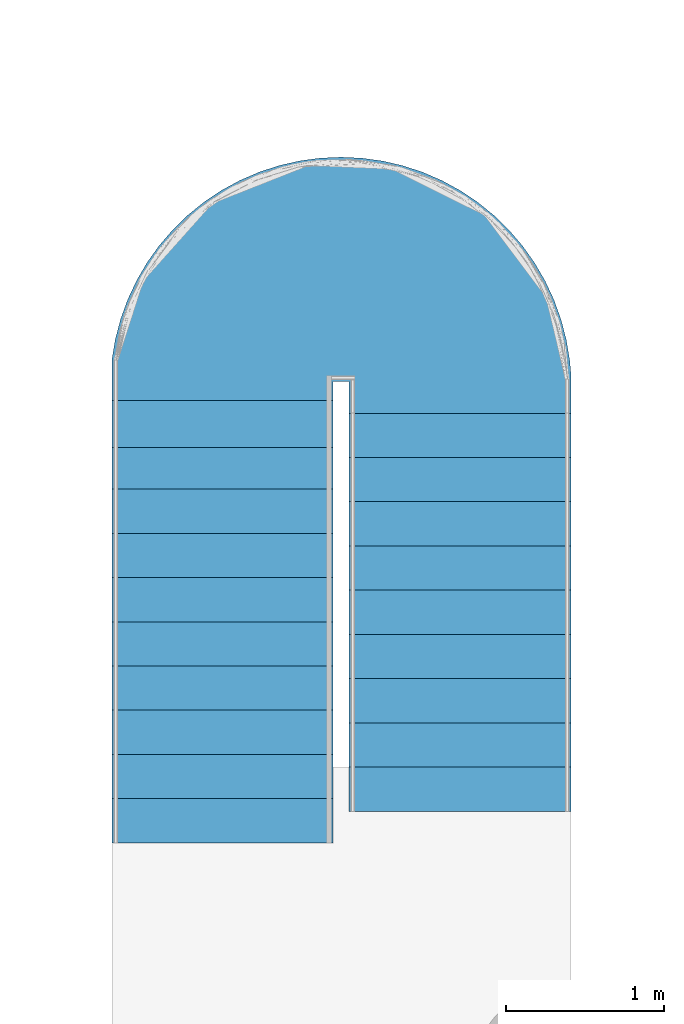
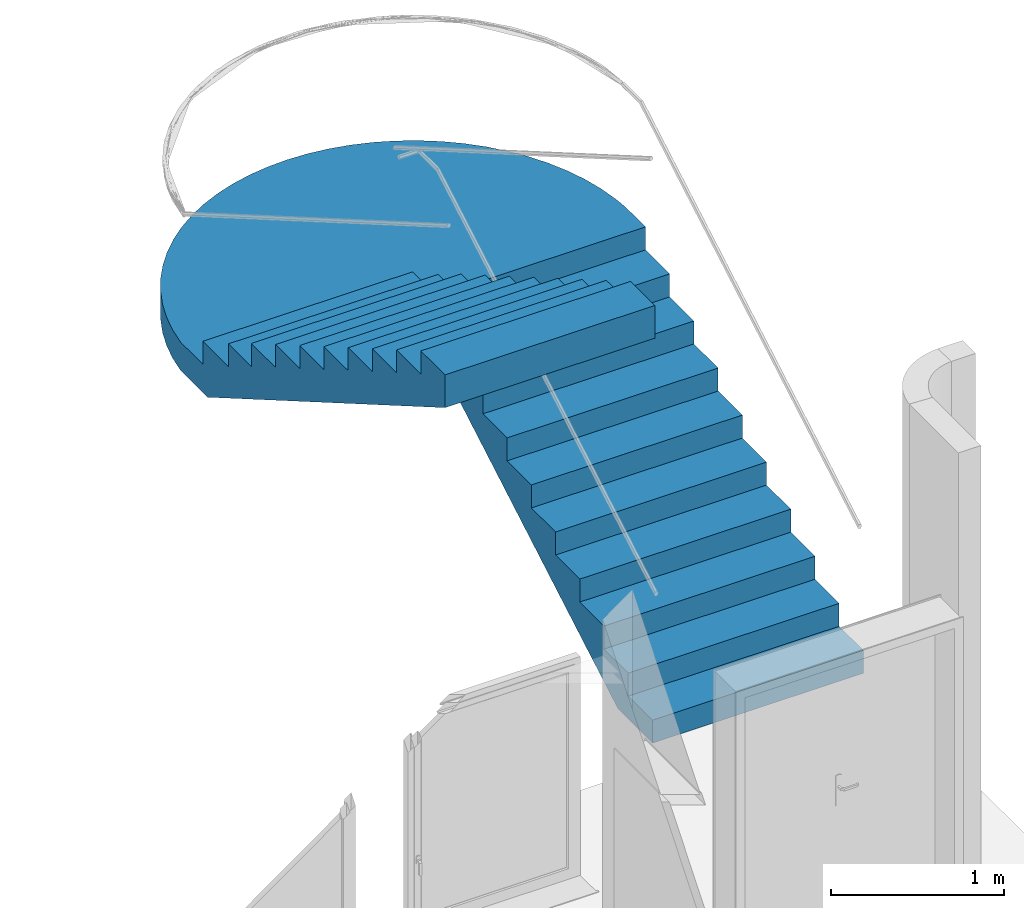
# One storey, part 3 of 4: 1 stair flight, 1 element without a shape of its own.
"""IFC2X3 building model written with IfcOpenShell, lengths in metres."""

from ifc_helpers import new_model, entity, si_unit, converted_unit, derived_unit, direction, frame, origin, place, context, subcontext, project, spatial, faceted_brep, material, type_object, element, aggregate, save


model = new_model("IFC2X3")

# Units and contexts
model_context = context("Model", 3, precision=1e-05, world=origin(), true_north=direction((6.12303176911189e-17, 1.0)))
body_context = subcontext(model_context, "Body", "Model", "MODEL_VIEW")
ifc_project = project(units=[si_unit("LENGTHUNIT", "METRE"), si_unit("AREAUNIT", "SQUARE_METRE"), si_unit("VOLUMEUNIT", "CUBIC_METRE"), converted_unit("PLANEANGLEUNIT", "DEGREE", entity("IfcRatioMeasure", 0.0174532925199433), si_unit("PLANEANGLEUNIT", "RADIAN"), dimensions=[0, 0, 0, 0, 0, 0, 0]), si_unit("MASSUNIT", "GRAM", prefix="KILO"), derived_unit("MASSDENSITYUNIT", [(si_unit("MASSUNIT", "GRAM", prefix="KILO"), 1), (si_unit("LENGTHUNIT", "METRE"), -3)]), derived_unit("MOMENTOFINERTIAUNIT", [(si_unit("LENGTHUNIT", "METRE"), 4)]), si_unit("TIMEUNIT", "SECOND"), si_unit("FREQUENCYUNIT", "HERTZ"), si_unit("THERMODYNAMICTEMPERATUREUNIT", "DEGREE_CELSIUS"), derived_unit("THERMALTRANSMITTANCEUNIT", [(si_unit("MASSUNIT", "GRAM", prefix="KILO"), 1), (si_unit("THERMODYNAMICTEMPERATUREUNIT", "KELVIN"), -1), (si_unit("TIMEUNIT", "SECOND"), -3)]), derived_unit("VOLUMETRICFLOWRATEUNIT", [(si_unit("LENGTHUNIT", "METRE"), 3), (si_unit("TIMEUNIT", "SECOND"), -1)]), si_unit("ELECTRICCURRENTUNIT", "AMPERE"), si_unit("ELECTRICVOLTAGEUNIT", "VOLT"), si_unit("POWERUNIT", "WATT"), si_unit("FORCEUNIT", "NEWTON", prefix="KILO"), si_unit("ILLUMINANCEUNIT", "LUX"), si_unit("LUMINOUSFLUXUNIT", "LUMEN"), si_unit("LUMINOUSINTENSITYUNIT", "CANDELA"), derived_unit("USERDEFINED", [(si_unit("MASSUNIT", "GRAM", prefix="KILO"), -1), (si_unit("LENGTHUNIT", "METRE"), -2), (si_unit("TIMEUNIT", "SECOND"), 3), (si_unit("LUMINOUSFLUXUNIT", "LUMEN"), 1)]), derived_unit("LINEARVELOCITYUNIT", [(si_unit("LENGTHUNIT", "METRE"), 1), (si_unit("TIMEUNIT", "SECOND"), -1)]), si_unit("PRESSUREUNIT", "PASCAL"), derived_unit("USERDEFINED", [(si_unit("LENGTHUNIT", "METRE"), -2), (si_unit("MASSUNIT", "GRAM", prefix="KILO"), 1), (si_unit("TIMEUNIT", "SECOND"), -2)]), derived_unit("LINEARFORCEUNIT", [(si_unit("MASSUNIT", "GRAM", prefix="KILO"), 1), (si_unit("LENGTHUNIT", "METRE"), 1), (si_unit("TIMEUNIT", "SECOND"), -2), (si_unit("LENGTHUNIT", "METRE"), -1)]), derived_unit("PLANARFORCEUNIT", [(si_unit("MASSUNIT", "GRAM", prefix="KILO"), 1), (si_unit("LENGTHUNIT", "METRE"), 1), (si_unit("TIMEUNIT", "SECOND"), -2), (si_unit("LENGTHUNIT", "METRE"), -2)])], contexts=[model_context])

# Site, building, storey
site_placement = place(None, origin())
site = spatial("IfcSite", under=ifc_project, at=site_placement, Name="Default", CompositionType="ELEMENT")
building_placement = place(site_placement, origin())
building = spatial("IfcBuilding", under=site, at=building_placement, CompositionType="ELEMENT")
storey_placement = place(building_placement, frame((0.0, 0.0, 4.12187276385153)))
storey = spatial("IfcBuildingStorey", under=building, at=storey_placement, Name="Niveau 1", CompositionType="ELEMENT", Elevation=4.12187276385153)

# Stair, stair flight
stair_placement = place(storey_placement, origin())
stair = element("IfcStair", 1, at=stair_placement, inside=storey, Name="Escalier coulé sur place:Escalier", ObjectType="Escalier coulé sur place:Escalier monobloc", ShapeType="NOTDEFINED")
ifc_material = material(Name="Béton, coulé sur place")
stair_flight_type = type_object("IfcStairFlightType", Name="Volée monobloc:Profondeur de structure 200 mm", PredefinedType="NOTDEFINED")
stair_flight_placement = place(stair_placement, frame((-18.7456891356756, 12.7387206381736, 0.0)))
stair_flight = element("IfcStairFlight", 2, at=stair_flight_placement, type_object=stair_flight_type, material=ifc_material, Name="Escalier coulé sur place:Escalier:994633 Run 1", ObjectType="Volée monobloc:Profondeur de structure 200 mm", NumberOfRiser=21, NumberOfTreads=20, RiserHeight=0.532387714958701, TreadLength=0.918635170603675, context=body_context, shape_type="Brep", body=[
    faceted_brep([(2.90986820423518, 0.479999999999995, 0.162271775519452), (1.50159527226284, 0.47999999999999, 0.162271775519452), (1.50159527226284, 0.199999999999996, 0.162271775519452), (2.90986820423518, 0.199999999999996, 0.162271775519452), (1.50159527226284, 0.479999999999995, 0.324543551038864), (1.50159527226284, 0.75999999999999, 0.324543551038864), (1.50159527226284, 0.759999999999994, 0.486815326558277), (1.50159527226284, 1.03999999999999, 0.486815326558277), (1.50159527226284, 1.03999999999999, 0.649087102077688), (1.50159527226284, 1.31999999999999, 0.649087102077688), (1.50159527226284, 1.31999999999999, 0.8113588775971), (1.50159527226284, 1.59999999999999, 0.8113588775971), (1.50159527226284, 1.59999999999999, 0.973630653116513), (1.50159527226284, 1.87999999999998, 0.973630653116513), (1.50159527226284, 1.87999999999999, 1.13590242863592), (1.50159527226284, 2.15999999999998, 1.13590242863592), (1.50159527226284, 2.15999999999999, 1.29817420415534), (1.50159527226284, 2.43999999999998, 1.29817420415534), (1.50159527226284, 2.43999999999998, 1.46044597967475), (1.50159527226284, 2.71999999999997, 1.46044597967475), (1.50159527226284, 2.71999999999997, 1.62271775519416), (1.50159527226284, 2.92012913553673, 1.62271775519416), (1.50159527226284, 2.92012913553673, 1.42271775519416), (1.50159527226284, 3.05376589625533, 1.42271775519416), (1.50159527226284, 2.71999999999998, 1.22928638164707), (1.50159527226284, 2.43999999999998, 1.06701460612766), (1.50159527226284, 2.15999999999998, 0.904742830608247), (1.50159527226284, 1.87999999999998, 0.742471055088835), (1.50159527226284, 1.59999999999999, 0.580199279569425), (1.50159527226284, 1.31999999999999, 0.417927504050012), (1.50159527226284, 1.03999999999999, 0.255655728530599), (1.50159527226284, 0.759999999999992, 0.0933839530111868), (1.50159527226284, 0.598865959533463, 0.0), (1.50159527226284, 0.47999999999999, 0.0), (1.50159527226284, 0.199999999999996, 0.0), (2.90986820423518, 0.199999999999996, 0.0), (2.90986820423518, 0.47999999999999, 0.0), (2.90986820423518, 0.598865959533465, 0.0), (2.90986820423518, 0.75999999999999, 0.0933839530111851), (2.90986820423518, 1.03999999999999, 0.255655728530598), (2.90986820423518, 1.31999999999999, 0.417927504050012), (2.90986820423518, 1.59999999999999, 0.580199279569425), (2.90986820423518, 1.87999999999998, 0.742471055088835), (2.90986820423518, 2.15999999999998, 0.904742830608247), (2.90986820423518, 2.43999999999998, 1.06701460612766), (2.90986820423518, 2.71999999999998, 1.22928638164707), (2.90986820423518, 2.93681591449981, 1.35494032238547), (2.90986820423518, 2.93681591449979, 1.41291584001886), (2.90986820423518, 2.93681591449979, 1.47089135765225), (2.90986820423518, 2.9368159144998, 1.62271775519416), (2.90986820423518, 2.71999999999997, 1.62271775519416), (2.90986820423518, 2.71999999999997, 1.46044597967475), (2.90986820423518, 2.43999999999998, 1.46044597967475), (2.90986820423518, 2.43999999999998, 1.29817420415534), (2.90986820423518, 2.15999999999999, 1.29817420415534), (2.90986820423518, 2.15999999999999, 1.13590242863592), (2.90986820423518, 1.87999999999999, 1.13590242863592), (2.90986820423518, 1.87999999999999, 0.973630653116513), (2.90986820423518, 1.59999999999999, 0.973630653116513), (2.90986820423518, 1.59999999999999, 0.8113588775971), (2.90986820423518, 1.31999999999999, 0.8113588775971), (2.90986820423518, 1.31999999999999, 0.649087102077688), (2.90986820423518, 1.03999999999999, 0.649087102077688), (2.90986820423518, 1.03999999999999, 0.486815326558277), (2.90986820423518, 0.759999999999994, 0.486815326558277), (2.90986820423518, 0.759999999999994, 0.324543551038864), (2.90986820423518, 0.479999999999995, 0.324543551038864), (2.9007433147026, 3.05376589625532, 1.42271775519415), (2.90648079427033, 2.99538258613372, 1.38888217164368), (2.90647836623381, 2.99541370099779, 1.62271775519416), (2.9007433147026, 3.05376589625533, 1.62271775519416), (2.87920938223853, 3.18437790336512, 1.62271775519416), (2.84593247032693, 3.31250695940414, 1.62271775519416), (2.80118679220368, 3.43709492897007, 1.62271775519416), (2.74534026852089, 3.55711759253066, 1.62271775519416), (2.6788520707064, 3.67158826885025, 1.62271775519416), (2.60226884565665, 3.77956592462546, 1.62271775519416), (2.51622022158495, 3.88016290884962, 1.62271775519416), (2.4214136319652, 3.97255224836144, 1.62271775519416), (2.31862850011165, 4.05597444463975, 1.62271775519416), (2.20870983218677, 4.12974371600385, 1.62271775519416), (2.09256127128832, 4.1932536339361, 1.62271775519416), (1.97113766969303, 4.2459821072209, 1.62271775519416), (1.84543724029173, 4.28749567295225, 1.62271775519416), (1.71649335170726, 4.31745305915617, 1.62271775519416), (1.58536603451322, 4.33560798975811, 1.62271775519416), (1.45313326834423, 4.34181120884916, 1.62271775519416), (1.32088212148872, 4.33601170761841, 1.62271775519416), (1.1896998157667, 4.31825714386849, 1.62271775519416), (1.06066479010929, 4.28869345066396, 1.62271775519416), (0.934837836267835, 4.2475636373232, 1.62271775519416), (0.813253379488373, 4.19520579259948, 1.62271775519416), (0.696910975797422, 4.13205030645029, 1.62271775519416), (0.586767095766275, 4.05861633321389, 1.62271775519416), (0.483727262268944, 3.9755075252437, 1.62271775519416), (0.388638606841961, 3.88340707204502, 1.62271775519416), (0.302282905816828, 3.78307208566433, 1.62271775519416), (0.225370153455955, 3.67532737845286, 1.62271775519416), (0.158532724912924, 3.56105868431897, 1.62271775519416), (0.102320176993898, 3.44120537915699, 1.62271775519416), (0.05719472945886, 3.31675276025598, 1.62271775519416), (0.0235275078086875, 3.18872415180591, 1.62271775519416), (0.00159527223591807, 3.05817147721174, 1.62271775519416), (0.00159527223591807, 2.79999999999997, 1.62271775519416), (1.40159527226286, 2.79999999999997, 1.62271775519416), (1.40159527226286, 2.92012913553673, 1.62271775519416), (1.40159527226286, 2.79999999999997, 1.78498953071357), (1.40159527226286, 2.74623410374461, 1.78498953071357), (1.40159527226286, 2.50319980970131, 1.78498953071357), (1.40159527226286, 2.50319980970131, 1.94726130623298), (1.40159527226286, 2.23999999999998, 1.94726130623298), (1.40159527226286, 2.23999999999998, 2.1095330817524), (1.40159527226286, 1.95999999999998, 2.1095330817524), (1.40159527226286, 1.95999999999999, 2.27180485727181), (1.40159527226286, 1.67999999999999, 2.27180485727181), (1.40159527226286, 1.67999999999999, 2.43407663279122), (1.40159527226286, 1.39999999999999, 2.43407663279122), (1.40159527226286, 1.39999999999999, 2.59634840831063), (1.40159527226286, 1.11999999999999, 2.59634840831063), (1.40159527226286, 1.11999999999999, 2.75862018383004), (1.40159527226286, 0.839999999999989, 2.75862018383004), (1.40159527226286, 0.839999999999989, 2.92089195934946), (1.40159527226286, 0.55999999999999, 2.92089195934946), (1.40159527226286, 0.559999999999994, 3.08316373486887), (1.40159527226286, 0.279999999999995, 3.08316373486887), (1.40159527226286, 0.279999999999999, 3.24543551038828), (1.40159527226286, 0.0, 3.24543551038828), (1.40159527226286, 0.0, 3.0142759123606), (1.40159527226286, 0.279999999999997, 2.85200413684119), (1.40159527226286, 0.559999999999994, 2.68973236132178), (1.40159527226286, 0.839999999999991, 2.52746058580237), (1.40159527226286, 1.11999999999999, 2.36518881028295), (1.40159527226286, 1.39999999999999, 2.20291703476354), (1.40159527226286, 1.67999999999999, 2.04064525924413), (1.40159527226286, 1.95999999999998, 1.87837348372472), (1.40159527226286, 2.23999999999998, 1.7161017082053), (1.40159527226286, 2.50319980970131, 1.56356634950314), (1.40159527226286, 2.74623410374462, 1.42271775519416), (1.40159527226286, 2.79999999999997, 1.42271775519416), (1.40159527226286, 2.92012913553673, 1.42271775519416), (0.00159527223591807, 2.74623410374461, 1.42271775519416), (0.00159527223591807, 2.79999999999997, 1.42271775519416), (0.0015952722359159, 3.05817147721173, 1.42271775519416), (0.0235268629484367, 3.18872115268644, 1.42271775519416), (0.0571931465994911, 3.31674768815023, 1.42271775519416), (0.102317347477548, 3.44119855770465, 1.42271775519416), (0.158528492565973, 3.5610506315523, 1.42271775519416), (0.225364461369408, 3.67531858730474, 1.42271775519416), (0.302275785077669, 3.78306301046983, 1.42271775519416), (0.38863016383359, 3.88339811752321, 1.42271775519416), (0.483717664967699, 3.9754990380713, 1.42271775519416), (0.58675655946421, 4.05860859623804, 1.42271775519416), (0.696899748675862, 4.13204353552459, 1.42271775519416), (0.813241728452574, 4.19520013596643, 1.42271775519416), (0.934826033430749, 4.24755917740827, 1.42271775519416), (1.06065310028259, 4.28869020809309, 1.42271775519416), (1.18968848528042, 4.31825508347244, 1.42271775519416), (1.32087136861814, 4.33601074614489, 1.42271775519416), (1.45312327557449, 4.34181122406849, 1.42271775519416), (1.58535694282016, 4.33560883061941, 1.42271775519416), (1.71648525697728, 4.317454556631, 1.42271775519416), (1.84543019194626, 4.28749765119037, 1.42271775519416), (1.97113167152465, 4.24598439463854, 1.42271775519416), (2.0925562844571, 4.19325607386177, 1.42271775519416), (2.20870578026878, 4.12974617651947, 1.42271775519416), (2.31862527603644, 4.05597682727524, 1.42271775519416), (2.42141110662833, 3.97255449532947, 1.42271775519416), (2.51621825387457, 3.88016500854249, 1.42271775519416), (2.60226729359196, 3.7795679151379, 1.42271775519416), (2.67885080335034, 3.67159023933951, 1.42271775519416), (2.74533917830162, 3.55711968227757, 1.42271775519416), (2.80118580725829, 3.43709732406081, 1.42271775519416), (2.84593156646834, 3.31250988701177, 1.42271775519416), (2.87920859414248, 3.18438162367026, 1.42271775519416), (0.00159527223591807, 0.0, 3.0142759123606), (0.00159527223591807, 0.279999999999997, 2.85200413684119), (0.00159527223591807, 0.559999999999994, 2.68973236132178), (0.00159527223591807, 0.839999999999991, 2.52746058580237), (0.00159527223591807, 1.11999999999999, 2.36518881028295), (0.00159527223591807, 1.39999999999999, 2.20291703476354), (0.00159527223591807, 1.67999999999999, 2.04064525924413), (0.00159527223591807, 1.95999999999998, 1.87837348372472), (0.00159527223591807, 2.23999999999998, 1.7161017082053), (0.00159527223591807, 2.50319980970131, 1.56356634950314), (0.00159527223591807, 0.0, 3.24543551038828), (0.00159527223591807, 0.279999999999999, 3.24543551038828), (0.00159527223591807, 0.279999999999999, 3.08316373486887), (0.00159527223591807, 0.559999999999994, 3.08316373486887), (0.00159527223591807, 0.559999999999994, 2.92089195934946), (0.00159527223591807, 0.839999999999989, 2.92089195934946), (0.00159527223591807, 0.839999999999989, 2.75862018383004), (0.00159527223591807, 1.11999999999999, 2.75862018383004), (0.00159527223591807, 1.11999999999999, 2.59634840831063), (0.00159527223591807, 1.39999999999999, 2.59634840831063), (0.00159527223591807, 1.39999999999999, 2.43407663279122), (0.00159527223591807, 1.67999999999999, 2.43407663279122), (0.00159527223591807, 1.67999999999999, 2.27180485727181), (0.00159527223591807, 1.95999999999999, 2.27180485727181), (0.00159527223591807, 1.95999999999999, 2.1095330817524), (0.00159527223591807, 2.23999999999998, 2.1095330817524), (0.00159527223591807, 2.23999999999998, 1.94726130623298), (0.00159527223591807, 2.50319980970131, 1.94726130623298), (0.00159527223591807, 2.50319980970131, 1.78498953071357), (0.00159527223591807, 2.74623410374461, 1.78498953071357), (0.00159527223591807, 2.79999999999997, 1.78498953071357)], [[[0, 1, 2, 3]], [[2, 1, 4, 5, 6, 7, 8, 9, 10, 11, 12, 13, 14, 15, 16, 17, 18, 19, 20, 21, 22, 23, 24, 25, 26, 27, 28, 29, 30, 31, 32, 33, 34]], [[3, 2, 34, 35]], [[0, 3, 35, 36, 37, 38, 39, 40, 41, 42, 43, 44, 45, 46, 47, 48, 49, 50, 51, 52, 53, 54, 55, 56, 57, 58, 59, 60, 61, 62, 63, 64, 65, 66]], [[65, 5, 4, 66]], [[66, 4, 1, 0]], [[63, 7, 6, 64]], [[64, 6, 5, 65]], [[33, 32, 37, 36, 35, 34]], [[46, 45, 44, 43, 42, 41, 40, 39, 38, 37, 32, 31, 30, 29, 28, 27, 26, 25, 24, 23, 67, 68]], [[61, 9, 8, 62]], [[62, 8, 7, 63]], [[59, 11, 10, 60]], [[60, 10, 9, 61]], [[57, 13, 12, 58]], [[58, 12, 11, 59]], [[55, 15, 14, 56]], [[56, 14, 13, 57]], [[53, 17, 16, 54]], [[54, 16, 15, 55]], [[51, 19, 18, 52]], [[52, 18, 17, 53]], [[20, 50, 49, 69, 70, 71, 72, 73, 74, 75, 76, 77, 78, 79, 80, 81, 82, 83, 84, 85, 86, 87, 88, 89, 90, 91, 92, 93, 94, 95, 96, 97, 98, 99, 100, 101, 102, 103, 104, 105, 21]], [[105, 104, 106, 107, 108, 109, 110, 111, 112, 113, 114, 115, 116, 117, 118, 119, 120, 121, 122, 123, 124, 125, 126, 127, 128, 129, 130, 131, 132, 133, 134, 135, 136, 137, 138, 139]], [[50, 20, 19, 51]], [[23, 22, 139, 138, 137, 140, 141, 142, 143, 144, 145, 146, 147, 148, 149, 150, 151, 152, 153, 154, 155, 156, 157, 158, 159, 160, 161, 162, 163, 164, 165, 166, 167, 168, 169, 170, 171, 172, 173, 67]], [[135, 134, 133, 132, 131, 130, 129, 128, 127, 174, 175, 176, 177, 178, 179, 180, 181, 182, 183, 140, 137, 136]], [[21, 105, 139, 22]], [[46, 68, 47]], [[67, 47, 68]], [[71, 67, 173]], [[48, 47, 67, 70]], [[73, 172, 171]], [[170, 169, 75]], [[173, 172, 72]], [[74, 171, 170]], [[82, 163, 162]], [[83, 162, 161]], [[164, 163, 81]], [[168, 167, 77]], [[80, 165, 164]], [[79, 166, 165]], [[167, 166, 78]], [[161, 160, 84]], [[169, 168, 76]], [[48, 69, 49]], [[70, 67, 71]], [[70, 69, 48]], [[72, 172, 73]], [[169, 76, 75]], [[75, 74, 170]], [[171, 74, 73]], [[173, 72, 71]], [[163, 82, 81]], [[83, 161, 84]], [[82, 162, 83]], [[168, 77, 76]], [[166, 79, 78]], [[165, 80, 79]], [[77, 167, 78]], [[164, 81, 80]], [[160, 85, 84]], [[160, 159, 85]], [[154, 90, 155]], [[153, 91, 154]], [[152, 92, 153]], [[87, 158, 157]], [[88, 157, 156]], [[155, 89, 156]], [[93, 152, 151]], [[99, 146, 145]], [[100, 145, 144]], [[101, 144, 143]], [[95, 150, 149]], [[148, 147, 97]], [[148, 96, 149]], [[98, 147, 146]], [[150, 94, 151]], [[102, 143, 142]], [[90, 89, 155]], [[154, 91, 90]], [[91, 153, 92]], [[93, 92, 152]], [[86, 159, 158]], [[87, 157, 88]], [[88, 156, 89]], [[158, 87, 86]], [[159, 86, 85]], [[98, 146, 99]], [[100, 144, 101]], [[145, 100, 99]], [[93, 151, 94]], [[95, 149, 96]], [[96, 148, 97]], [[150, 95, 94]], [[97, 147, 98]], [[143, 102, 101]], [[103, 102, 142, 141, 140, 183, 182, 181, 180, 179, 178, 177, 176, 175, 174, 184, 185, 186, 187, 188, 189, 190, 191, 192, 193, 194, 195, 196, 197, 198, 199, 200, 201, 202, 203, 204]], [[202, 108, 107, 106, 204, 203]], [[204, 106, 104, 103]], [[200, 110, 109, 201]], [[201, 109, 108, 202]], [[198, 112, 111, 199]], [[199, 111, 110, 200]], [[196, 114, 113, 197]], [[197, 113, 112, 198]], [[194, 116, 115, 195]], [[195, 115, 114, 196]], [[192, 118, 117, 193]], [[193, 117, 116, 194]], [[190, 120, 119, 191]], [[191, 119, 118, 192]], [[188, 122, 121, 189]], [[189, 121, 120, 190]], [[186, 124, 123, 187]], [[187, 123, 122, 188]], [[184, 126, 125, 185]], [[185, 125, 124, 186]], [[126, 184, 174, 127]]]),
])
aggregate(stair, [stair_flight])

save(model, "model.ifc")
